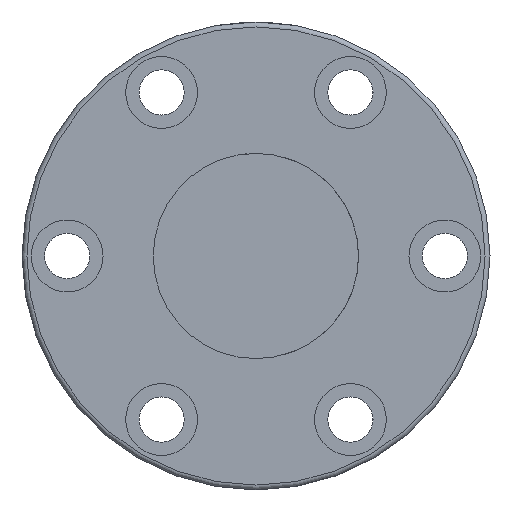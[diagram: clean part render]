
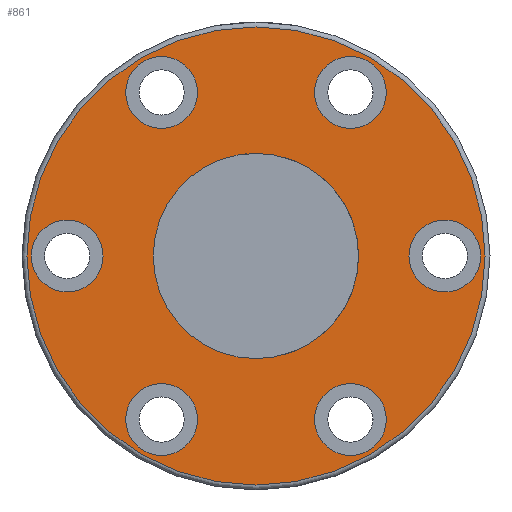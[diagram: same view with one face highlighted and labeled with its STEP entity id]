
A CAD part, front view. The second image highlights one B-rep face of the part: STEP entity #861.
In plain terms, the highlighted planar face has unit normal (0, -1, 0).
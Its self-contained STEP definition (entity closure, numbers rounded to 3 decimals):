
#9 = EDGE_CURVE ( 'NONE', #715, #715, #388, .T. ) ;
#11 = VERTEX_POINT ( 'NONE', #357 ) ;
#21 = VERTEX_POINT ( 'NONE', #797 ) ;
#56 = DIRECTION ( 'NONE',  ( 0., 1., 0. ) ) ;
#63 = DIRECTION ( 'NONE',  ( 0., 1., 0. ) ) ;
#78 = CARTESIAN_POINT ( 'NONE',  ( 0.039, -43.961, 55.8 ) ) ;
#87 = EDGE_CURVE ( 'NONE', #370, #370, #272, .T. ) ;
#117 = FACE_BOUND ( 'NONE', #480, .T. ) ;
#138 = FACE_OUTER_BOUND ( 'NONE', #268, .T. ) ;
#141 = DIRECTION ( 'NONE',  ( 0., 1., 0. ) ) ;
#166 = CARTESIAN_POINT ( 'NONE',  ( -22.961, -43.961, -39.837 ) ) ;
#182 = CIRCLE ( 'NONE', #203, 25. ) ;
#203 = AXIS2_PLACEMENT_3D ( 'NONE', #752, #668, #213 ) ;
#206 = ORIENTED_EDGE ( 'NONE', *, *, #9, .T. ) ;
#208 = EDGE_CURVE ( 'NONE', #21, #21, #182, .T. ) ;
#213 = DIRECTION ( 'NONE',  ( -1., 0., 0. ) ) ;
#214 = DIRECTION ( 'NONE',  ( 0., 0., 1. ) ) ;
#225 = FACE_BOUND ( 'NONE', #602, .T. ) ;
#248 = DIRECTION ( 'NONE',  ( 0., 0., 1. ) ) ;
#256 = CARTESIAN_POINT ( 'NONE',  ( 46.039, -43.961, 8.75 ) ) ;
#257 = CIRCLE ( 'NONE', #560, 8.75 ) ;
#268 = EDGE_LOOP ( 'NONE', ( #1121 ) ) ;
#272 = CIRCLE ( 'NONE', #498, 55.8 ) ;
#279 = DIRECTION ( 'NONE',  ( 0., 0., 1. ) ) ;
#288 = PLANE ( 'NONE',  #980 ) ;
#293 = DIRECTION ( 'NONE',  ( 1., 0., 0. ) ) ;
#296 = ORIENTED_EDGE ( 'NONE', *, *, #608, .T. ) ;
#299 = DIRECTION ( 'NONE',  ( 0., 0., 1. ) ) ;
#301 = CARTESIAN_POINT ( 'NONE',  ( 23.039, -43.961, 39.837 ) ) ;
#311 = FACE_BOUND ( 'NONE', #1077, .T. ) ;
#316 = DIRECTION ( 'NONE',  ( 0., 0., 1. ) ) ;
#326 = EDGE_CURVE ( 'NONE', #452, #452, #536, .T. ) ;
#347 = CARTESIAN_POINT ( 'NONE',  ( -45.961, -43.961, 0. ) ) ;
#348 = EDGE_CURVE ( 'NONE', #11, #11, #628, .T. ) ;
#357 = CARTESIAN_POINT ( 'NONE',  ( 23.039, -43.961, -31.087 ) ) ;
#370 = VERTEX_POINT ( 'NONE', #78 ) ;
#381 = CARTESIAN_POINT ( 'NONE',  ( -22.961, -43.961, 48.587 ) ) ;
#388 = CIRCLE ( 'NONE', #739, 8.75 ) ;
#408 = ORIENTED_EDGE ( 'NONE', *, *, #208, .T. ) ;
#420 = AXIS2_PLACEMENT_3D ( 'NONE', #993, #934, #214 ) ;
#423 = EDGE_LOOP ( 'NONE', ( #803 ) ) ;
#452 = VERTEX_POINT ( 'NONE', #1063 ) ;
#480 = EDGE_LOOP ( 'NONE', ( #681 ) ) ;
#481 = FACE_BOUND ( 'NONE', #423, .T. ) ;
#492 = DIRECTION ( 'NONE',  ( 0., -1., 0. ) ) ;
#498 = AXIS2_PLACEMENT_3D ( 'NONE', #747, #492, #316 ) ;
#512 = DIRECTION ( 'NONE',  ( 0., 0., 1. ) ) ;
#517 = AXIS2_PLACEMENT_3D ( 'NONE', #566, #667, #299 ) ;
#518 = DIRECTION ( 'NONE',  ( 0., 1., 0. ) ) ;
#531 = CARTESIAN_POINT ( 'NONE',  ( -45.961, -43.961, 8.75 ) ) ;
#535 = EDGE_CURVE ( 'NONE', #1076, #1076, #257, .T. ) ;
#536 = CIRCLE ( 'NONE', #651, 8.75 ) ;
#560 = AXIS2_PLACEMENT_3D ( 'NONE', #347, #974, #279 ) ;
#566 = CARTESIAN_POINT ( 'NONE',  ( 46.039, -43.961, 0. ) ) ;
#579 = FACE_BOUND ( 'NONE', #868, .T. ) ;
#602 = EDGE_LOOP ( 'NONE', ( #206 ) ) ;
#608 = EDGE_CURVE ( 'NONE', #711, #711, #1017, .T. ) ;
#628 = CIRCLE ( 'NONE', #831, 8.75 ) ;
#651 = AXIS2_PLACEMENT_3D ( 'NONE', #166, #63, #248 ) ;
#660 = FACE_BOUND ( 'NONE', #923, .T. ) ;
#667 = DIRECTION ( 'NONE',  ( 0., 1., 0. ) ) ;
#668 = DIRECTION ( 'NONE',  ( 0., 1., 0. ) ) ;
#681 = ORIENTED_EDGE ( 'NONE', *, *, #348, .T. ) ;
#699 = EDGE_LOOP ( 'NONE', ( #992 ) ) ;
#711 = VERTEX_POINT ( 'NONE', #256 ) ;
#715 = VERTEX_POINT ( 'NONE', #789 ) ;
#735 = CARTESIAN_POINT ( 'NONE',  ( 0.039, -43.961, 0. ) ) ;
#739 = AXIS2_PLACEMENT_3D ( 'NONE', #301, #56, #840 ) ;
#747 = CARTESIAN_POINT ( 'NONE',  ( 0.039, -43.961, 0. ) ) ;
#752 = CARTESIAN_POINT ( 'NONE',  ( 0.039, -43.961, 0. ) ) ;
#789 = CARTESIAN_POINT ( 'NONE',  ( 23.039, -43.961, 48.587 ) ) ;
#797 = CARTESIAN_POINT ( 'NONE',  ( -24.961, -43.961, 0. ) ) ;
#803 = ORIENTED_EDGE ( 'NONE', *, *, #991, .T. ) ;
#821 = VERTEX_POINT ( 'NONE', #381 ) ;
#831 = AXIS2_PLACEMENT_3D ( 'NONE', #872, #518, #512 ) ;
#840 = DIRECTION ( 'NONE',  ( 0., 0., 1. ) ) ;
#846 = FACE_BOUND ( 'NONE', #699, .T. ) ;
#853 = CIRCLE ( 'NONE', #420, 8.75 ) ;
#861 = ADVANCED_FACE ( 'NONE', ( #311, #846, #117, #579, #225, #481, #138, #660 ), #288, .F. ) ;
#868 = EDGE_LOOP ( 'NONE', ( #1070 ) ) ;
#872 = CARTESIAN_POINT ( 'NONE',  ( 23.039, -43.961, -39.837 ) ) ;
#923 = EDGE_LOOP ( 'NONE', ( #408 ) ) ;
#934 = DIRECTION ( 'NONE',  ( 0., 1., 0. ) ) ;
#974 = DIRECTION ( 'NONE',  ( 0., 1., 0. ) ) ;
#980 = AXIS2_PLACEMENT_3D ( 'NONE', #735, #141, #293 ) ;
#991 = EDGE_CURVE ( 'NONE', #821, #821, #853, .T. ) ;
#992 = ORIENTED_EDGE ( 'NONE', *, *, #535, .T. ) ;
#993 = CARTESIAN_POINT ( 'NONE',  ( -22.961, -43.961, 39.837 ) ) ;
#1017 = CIRCLE ( 'NONE', #517, 8.75 ) ;
#1063 = CARTESIAN_POINT ( 'NONE',  ( -22.961, -43.961, -31.087 ) ) ;
#1070 = ORIENTED_EDGE ( 'NONE', *, *, #326, .T. ) ;
#1076 = VERTEX_POINT ( 'NONE', #531 ) ;
#1077 = EDGE_LOOP ( 'NONE', ( #296 ) ) ;
#1121 = ORIENTED_EDGE ( 'NONE', *, *, #87, .T. ) ;
